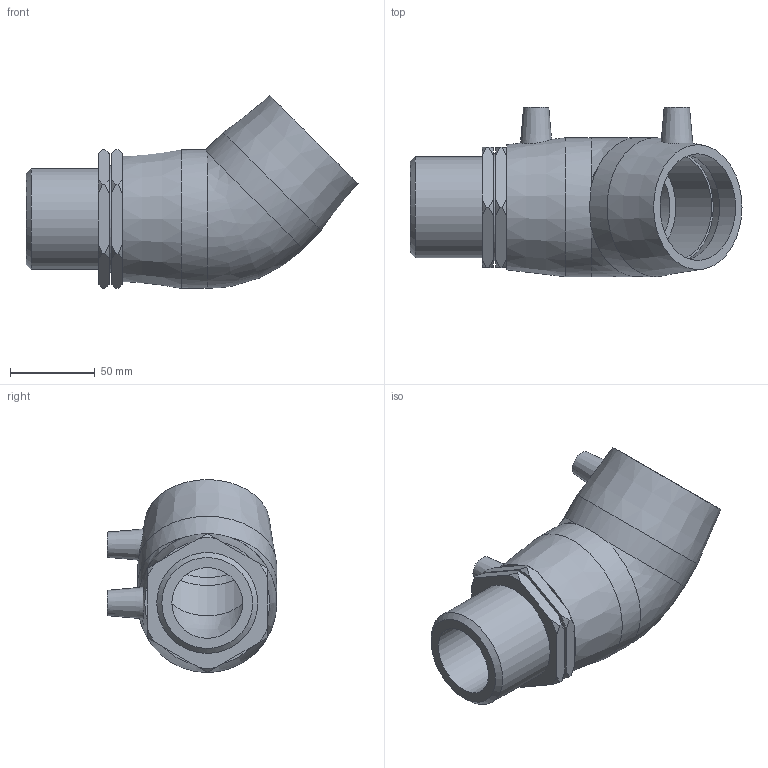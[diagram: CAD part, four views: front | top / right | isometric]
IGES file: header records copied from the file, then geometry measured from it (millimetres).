
Global section: file name: 497604063020.ipt; native system: Autodesk Inventor 2015; preprocessor: unknown; author: KIM; date: 20171106.094439; units: millimetre
Bounding box: 196 x 100 x 113.86 mm (x, y, z)
Volume: 444387 mm3; surface area: 91262.1 mm2
Topology: 1 solids, 2 shells, 77 faces, 196 edges, 133 vertices
Faces by surface type: plane 30, cone 29, revolution 8, cylinder 8, bspline 2
Full cylindrical faces by diameter (mm): 4 x2, 59.614 x1, 63 x3, 82 x2
